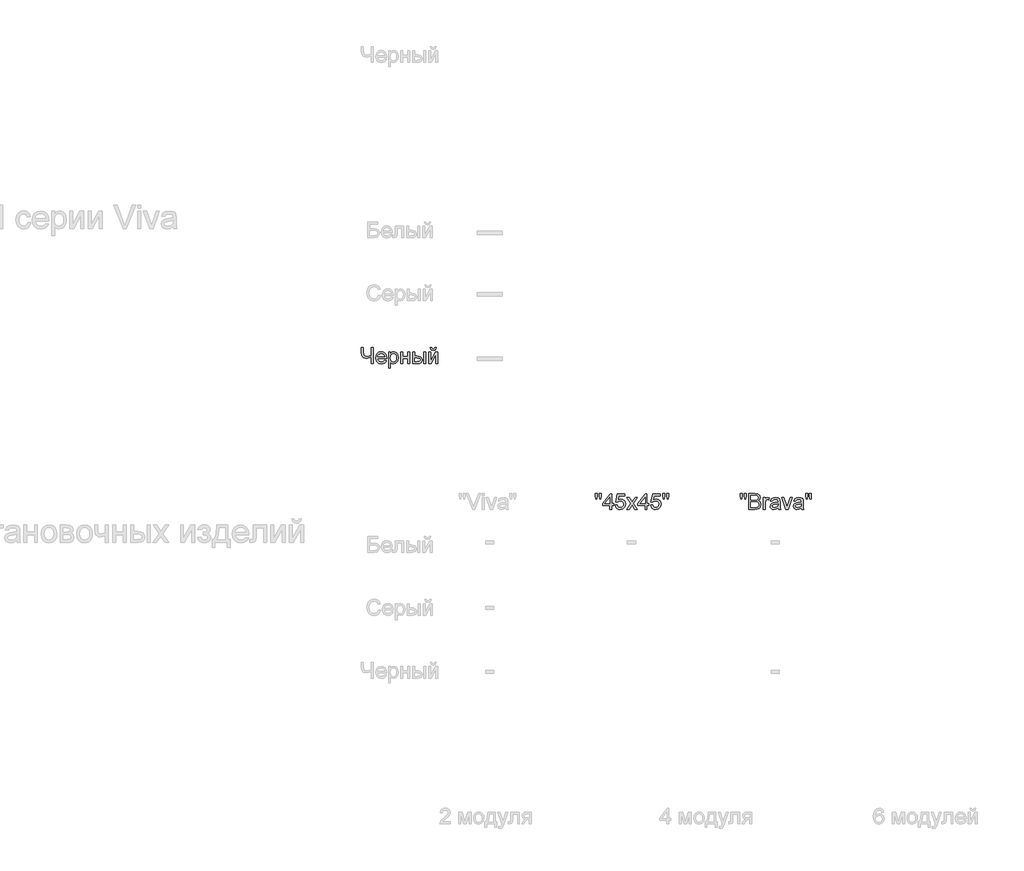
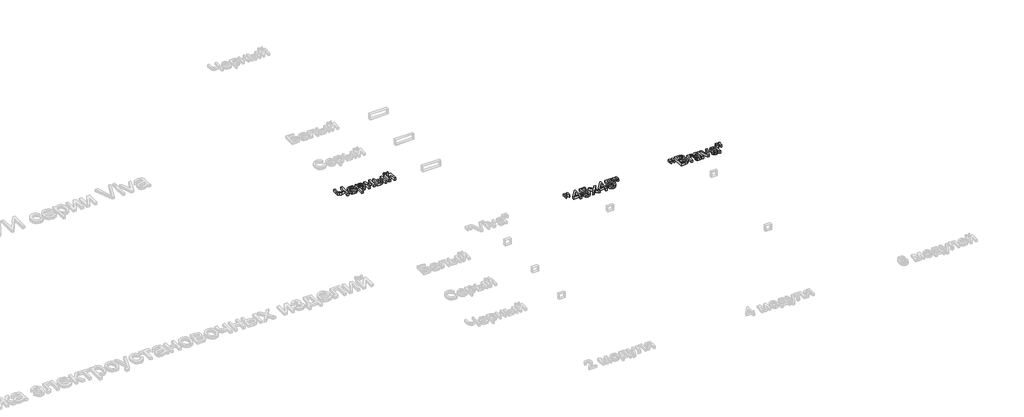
# One storey, part 21 of 48: 3 proxies.
"""IFC4 building model written with IfcOpenShell, lengths in millimetres."""

from ifc_helpers import new_model, si_unit, origin, origin_with_axes, place, context, project, spatial, polyline, outline, extrude, element, save

model = new_model("IFC4")

# Units and contexts
model_context = context("Model", 3, world=origin())
ifc_project = project(units=[si_unit("LENGTHUNIT", "METRE", prefix="MILLI")], contexts=[model_context])

# Site, building, storey
site = spatial("IfcSite", under=ifc_project)
building = spatial("IfcBuilding", under=site)
storey = spatial("IfcBuildingStorey", under=building, Name="Этаж 01", Elevation=0.0)

# Proxies
placement = place(None, origin())
element("IfcBuildingElementProxy", 1, Name="100 мм Arial", ObjectType="100 мм Arial", at=placement, inside=storey, context=model_context, shape_type="SweptSolid", body=[
    extrude(outline(polyline([(76555.9009525, -4442.3363711), (76543.3439138, -4442.3363711), (76543.3439138, -4402.1146062), (76512.2456225, -4409.3741443), (76493.8883109, -4404.4077373), (76483.2442585, -4391.8016476), (76480.5587199, -4371.8011298), (76480.5587199, -4341.8800609), (76493.1157587, -4341.8800609), (76493.1157587, -4370.1088727), (76494.6240749, -4383.686784), (76499.1490234, -4391.6544948), (76513.643574, -4396.8171055), (76543.3439138, -4390.5876371), (76543.3439138, -4341.8800609), (76555.9009525, -4341.8800609), (76555.9009525, -4442.3363711)])), origin_with_axes(), (0.0, 0.0, 1.0), 20.0),
    extrude(outline(polyline([(76627.9567727, -4420.3615532), (76640.2685568, -4421.9311831), (76635.8325131, -4431.2079407), (76628.7538503, -4438.1425163), (76619.1919841, -4442.4651297), (76607.30633, -4443.9060009), (76592.5726561, -4441.4197317), (76581.2357593, -4433.9609243), (76574.0068781, -4422.0139565), (76571.597251, -4406.0632063), (76574.0314035, -4389.5759616), (76581.3338611, -4377.2457834), (76592.5174738, -4369.5570497), (76606.5950915, -4366.9941384), (76620.2343165, -4369.5509183), (76631.1328206, -4377.2212579), (76638.2789283, -4389.5269106), (76640.6609642, -4405.9896299), (76640.5873878, -4409.3741443), (76584.1542898, -4409.3741443), (76586.3278592, -4418.7735293), (76591.3770396, -4425.6835794), (76598.6641688, -4429.9326164), (76607.5515847, -4431.3489621), (76619.8633688, -4428.7247372), (76627.9567727, -4420.3615532)]), holes=[polyline([(76584.1542898, -4396.8171055), (76628.1039255, -4396.8171055), (76623.0762049, -4385.4372891), (76615.7553532, -4381.0227052), (76606.5460406, -4379.5511772), (76591.082734, -4384.247804), (76586.2174946, -4389.7384428), (76584.1542898, -4396.8171055)])]), origin_with_axes(), (0.0, 0.0, 1.0), 20.0),
    extrude(outline(polyline([(76653.218003, -4470.5897083), (76653.218003, -4368.5637683), (76665.7750418, -4368.5637683), (76665.7750418, -4380.8755524), (76674.4570569, -4370.4644919), (76686.1802298, -4366.9941384), (76702.0972574, -4371.8501808), (76712.4960552, -4385.535391), (76716.0031969, -4404.8859839), (76712.042334, -4425.2298583), (76700.5398903, -4439.0867468), (76684.6596509, -4443.9060009), (76673.7335556, -4440.6809021), (76665.7750418, -4432.5261845), (76665.7750418, -4470.5897083), (76653.218003, -4470.5897083)]), holes=[polyline([(76665.7750418, -4406.0386809), (76667.1331395, -4417.2958699), (76671.2074326, -4425.1685446), (76677.2192375, -4429.8038577), (76684.3898707, -4431.3489621), (76691.6769999, -4429.7486754), (76697.842089, -4424.9478154), (76702.0451408, -4416.7869665), (76703.4461581, -4405.1067131), (76702.0788633, -4393.9108378), (76697.9769791, -4385.9277985), (76691.9743712, -4381.1453325), (76684.9049055, -4379.5511772), (76677.8078487, -4381.2465001), (76671.5753146, -4386.3324687), (76667.22511, -4394.6496674), (76665.7750418, -4406.0386809)])]), origin_with_axes(), (0.0, 0.0, 1.0), 20.0),
    extrude(outline(polyline([(76730.1298655, -4368.5637683), (76742.6869042, -4368.5637683), (76742.6869042, -4396.8171055), (76775.649131, -4396.8171055), (76775.649131, -4368.5637683), (76788.2061698, -4368.5637683), (76788.2061698, -4442.3363711), (76775.649131, -4442.3363711), (76775.649131, -4409.3741443), (76742.6869042, -4409.3741443), (76742.6869042, -4442.3363711), (76730.1298655, -4442.3363711), (76730.1298655, -4368.5637683)])), origin_with_axes(), (0.0, 0.0, 1.0), 20.0),
    extrude(outline(polyline([(76876.1054412, -4368.5637683), (76888.6624799, -4368.5637683), (76888.6624799, -4442.3363711), (76876.1054412, -4442.3363711), (76876.1054412, -4368.5637683)])), origin_with_axes(), (0.0, 0.0, 1.0), 20.0),
    extrude(outline(polyline([(76807.0417279, -4368.5637683), (76819.5987667, -4368.5637683), (76819.5987667, -4395.2474757), (76835.1233869, -4395.2474757), (76848.5418827, -4396.8201712), (76858.4838936, -4401.5382578), (76864.63672, -4409.0215907), (76866.6876621, -4418.8900252), (76864.9678137, -4427.875543), (76859.8082688, -4435.4569777), (76850.871802, -4440.6165227), (76837.8211882, -4442.3363711), (76807.0417279, -4442.3363711), (76807.0417279, -4368.5637683)]), holes=[polyline([(76819.5987667, -4429.7793323), (76832.499162, -4429.7793323), (76849.1519536, -4427.1428447), (76854.1306233, -4418.9145507), (76850.4395406, -4411.1890288), (76834.1423682, -4407.8045144), (76819.5987667, -4407.8045144), (76819.5987667, -4429.7793323)])]), origin_with_axes(), (0.0, 0.0, 1.0), 20.0),
    extrude(outline(polyline([(76907.4980381, -4368.5637683), (76920.0550768, -4368.5637683), (76920.0550768, -4424.8251881), (76950.9081135, -4368.5637683), (76967.1439722, -4368.5637683), (76967.1439722, -4442.3363711), (76954.5869335, -4442.3363711), (76954.5869335, -4386.4183078), (76923.9301005, -4442.3363711), (76907.4980381, -4442.3363711), (76907.4980381, -4368.5637683)])), origin_with_axes(), (0.0, 0.0, 1.0), 20.0),
    extrude(outline(polyline([(76948.3084141, -4341.8800609), (76957.7261931, -4341.8800609), (76951.6316148, -4355.847314), (76938.1058201, -4360.7156191), (76923.4641167, -4355.8841022), (76916.9158171, -4341.8800609), (76926.3335962, -4341.8800609), (76929.8652634, -4348.9556579), (76936.9776486, -4351.29784), (76944.7767469, -4349.0292343), (76948.3084141, -4341.8800609)])), origin_with_axes(), (0.0, 0.0, 1.0), 20.0),
])
element("IfcBuildingElementProxy", 2, Name="100 мм Arial", ObjectType="100 мм Arial", at=placement, inside=storey, context=model_context, shape_type="SweptSolid", body=[
    extrude(outline(polyline([(77970.2792525, -5304.3365474), (77967.2135692, -5284.9369035), (77967.2135692, -5268.235061), (77979.770608, -5268.235061), (77979.770608, -5284.9369035), (77977.0237558, -5304.3365474), (77970.2792525, -5304.3365474)])), origin_with_axes(), (0.0, 0.0, 1.0), 20.0),
    extrude(outline(polyline([(77995.3197537, -5304.3365474), (77992.3276468, -5284.9369035), (77992.3276468, -5268.235061), (78004.8846855, -5268.235061), (78004.8846855, -5284.9369035), (78001.9416296, -5304.3365474), (77995.3197537, -5304.3365474)])), origin_with_axes(), (0.0, 0.0, 1.0), 20.0),
    extrude(outline(polyline([(78058.2521003, -5368.6913711), (78058.2521003, -5345.1469234), (78012.7328348, -5345.1469234), (78012.7328348, -5332.5898847), (78061.39136, -5269.8046908), (78070.8091391, -5269.8046908), (78070.8091391, -5332.5898847), (78083.3661779, -5332.5898847), (78083.3661779, -5345.1469234), (78070.8091391, -5345.1469234), (78070.8091391, -5368.6913711), (78058.2521003, -5368.6913711)]), holes=[polyline([(78058.2521003, -5332.5898847), (78058.2521003, -5293.7905969), (78028.1838786, -5332.5898847), (78058.2521003, -5332.5898847)])]), origin_with_axes(), (0.0, 0.0, 1.0), 20.0),
    extrude(outline(polyline([(78094.3535868, -5342.0076637), (78106.9106255, -5340.4380339), (78113.2381959, -5353.3752174), (78126.3593204, -5357.7039622), (78135.3601665, -5356.1987117), (78142.1046698, -5351.6829602), (78146.3169186, -5344.6778739), (78147.7210015, -5335.7046189), (78142.460289, -5320.7931353), (78135.8537415, -5316.6912511), (78126.5555241, -5315.3239563), (78115.531327, -5317.5067229), (78108.4802554, -5323.1721056), (78095.9232166, -5321.6024757), (78106.9106255, -5269.8046908), (78155.5691508, -5269.8046908), (78155.5691508, -5282.3617296), (78117.0641686, -5282.3617296), (78111.6930915, -5310.0264556), (78120.6632808, -5304.5818021), (78130.0626658, -5302.7669176), (78141.7950357, -5305.0171291), (78151.5347116, -5311.7677637), (78158.0922081, -5322.0561969), (78160.2780403, -5334.919804), (78158.3098716, -5347.4768427), (78152.4053656, -5358.218997), (78141.0991256, -5367.2505), (78126.3102694, -5370.261001), (78113.9770255, -5368.3265548), (78104.1515106, -5362.5232163), (78097.4162044, -5353.5254359), (78094.3535868, -5342.0076637)])), origin_with_axes(), (0.0, 0.0, 1.0), 20.0),
    extrude(outline(polyline([(78166.5565597, -5368.6913711), (78193.3874199, -5331.608866), (78168.1261895, -5294.9187683), (78183.2338768, -5294.9187683), (78195.4230336, -5312.5771041), (78201.1129418, -5320.9157627), (78206.0425605, -5314.097683), (78219.9239745, -5294.9187683), (78235.0316617, -5294.9187683), (78208.4951071, -5331.608866), (78234.0506431, -5368.6913711), (78218.9429558, -5368.6913711), (78203.5654884, -5346.3977222), (78200.7450598, -5342.3264948), (78181.664247, -5368.6913711), (78166.5565597, -5368.6913711)])), origin_with_axes(), (0.0, 0.0, 1.0), 20.0),
    extrude(outline(polyline([(78282.7091683, -5368.6913711), (78282.7091683, -5345.1469234), (78237.1899028, -5345.1469234), (78237.1899028, -5332.5898847), (78285.848428, -5269.8046908), (78295.2662071, -5269.8046908), (78295.2662071, -5332.5898847), (78307.8232458, -5332.5898847), (78307.8232458, -5345.1469234), (78295.2662071, -5345.1469234), (78295.2662071, -5368.6913711), (78282.7091683, -5368.6913711)]), holes=[polyline([(78282.7091683, -5332.5898847), (78282.7091683, -5293.7905969), (78252.6409466, -5332.5898847), (78282.7091683, -5332.5898847)])]), origin_with_axes(), (0.0, 0.0, 1.0), 20.0),
    extrude(outline(polyline([(78318.8106548, -5342.0076637), (78331.3676935, -5340.4380339), (78337.6952639, -5353.3752174), (78350.8163883, -5357.7039622), (78359.8172345, -5356.1987117), (78366.5617377, -5351.6829602), (78370.7739866, -5344.6778739), (78372.1780695, -5335.7046189), (78366.917357, -5320.7931353), (78360.3108095, -5316.6912511), (78351.0125921, -5315.3239563), (78339.988395, -5317.5067229), (78332.9373234, -5323.1721056), (78320.3802846, -5321.6024757), (78331.3676935, -5269.8046908), (78380.0262188, -5269.8046908), (78380.0262188, -5282.3617296), (78341.5212366, -5282.3617296), (78336.1501595, -5310.0264556), (78345.1203488, -5304.5818021), (78354.5197338, -5302.7669176), (78366.2521037, -5305.0171291), (78375.9917796, -5311.7677637), (78382.5492761, -5322.0561969), (78384.7351083, -5334.919804), (78382.7669396, -5347.4768427), (78376.8624336, -5358.218997), (78365.5561936, -5367.2505), (78350.7673374, -5370.261001), (78338.4340935, -5368.3265548), (78328.6085786, -5362.5232163), (78321.8732724, -5353.5254359), (78318.8106548, -5342.0076637)])), origin_with_axes(), (0.0, 0.0, 1.0), 20.0),
    extrude(outline(polyline([(78398.7882005, -5304.3365474), (78395.7225172, -5284.9369035), (78395.7225172, -5268.235061), (78408.279556, -5268.235061), (78408.279556, -5284.9369035), (78405.5327038, -5304.3365474), (78398.7882005, -5304.3365474)])), origin_with_axes(), (0.0, 0.0, 1.0), 20.0),
    extrude(outline(polyline([(78423.8287017, -5304.3365474), (78420.8365948, -5284.9369035), (78420.8365948, -5268.235061), (78433.3936335, -5268.235061), (78433.3936335, -5284.9369035), (78430.4505776, -5304.3365474), (78423.8287017, -5304.3365474)])), origin_with_axes(), (0.0, 0.0, 1.0), 20.0),
])
element("IfcBuildingElementProxy", 3, Name="100 мм Arial", ObjectType="100 мм Arial", at=placement, inside=storey, context=model_context, shape_type="SweptSolid", body=[
    extrude(outline(polyline([(78891.3006795, -5304.3365474), (78888.2349962, -5284.9369035), (78888.2349962, -5268.235061), (78900.792035, -5268.235061), (78900.792035, -5284.9369035), (78898.0451828, -5304.3365474), (78891.3006795, -5304.3365474)])), origin_with_axes(), (0.0, 0.0, 1.0), 20.0),
    extrude(outline(polyline([(78916.3411807, -5304.3365474), (78913.3490738, -5284.9369035), (78913.3490738, -5268.235061), (78925.9061125, -5268.235061), (78925.9061125, -5284.9369035), (78922.9630566, -5304.3365474), (78916.3411807, -5304.3365474)])), origin_with_axes(), (0.0, 0.0, 1.0), 20.0),
    extrude(outline(polyline([(78943.1720408, -5368.6913711), (78943.1720408, -5268.235061), (78981.5053447, -5268.235061), (79000.2795892, -5271.1903797), (79011.3651, -5280.2770649), (79015.3750138, -5293.1284093), (79012.0027621, -5304.863845), (79001.8124309, -5313.7543265), (79014.1855286, -5323.1230546), (79018.5142735, -5338.7457767), (79015.5589548, -5352.2470459), (79008.2381031, -5361.8610287), (78997.3120078, -5366.9623257), (78981.2110391, -5368.6913711), (78943.1720408, -5368.6913711)]), holes=[polyline([(78955.7290796, -5309.045437), (78978.6603906, -5309.045437), (78992.0512953, -5307.9663164), (79000.107911, -5303.3187406), (79002.817975, -5295.1394975), (79000.291852, -5286.9479918), (78993.0568394, -5282.1042122), (78976.9190825, -5280.7920997), (78955.7290796, -5280.7920997), (78955.7290796, -5309.045437)]), polyline([(78955.7290796, -5356.1343323), (78981.4808193, -5356.1343323), (78990.8004965, -5355.643823), (78998.6854339, -5352.9092335), (79003.9093582, -5347.3296899), (79005.9572347, -5338.868404), (79003.553739, -5329.1072684), (78995.7669034, -5323.2824702), (78980.254546, -5321.6024757), (78955.7290796, -5321.6024757), (78955.7290796, -5356.1343323)])]), origin_with_axes(), (0.0, 0.0, 1.0), 20.0),
    extrude(outline(polyline([(79034.2105719, -5368.6913711), (79034.2105719, -5294.9187683), (79045.1979808, -5294.9187683), (79045.1979808, -5305.8326009), (79052.9970791, -5295.7771597), (79060.8452284, -5293.3491385), (79073.4513181, -5297.2241622), (79069.2574633, -5308.4813512), (79060.4282954, -5305.9061773), (79053.3281729, -5308.3832494), (79048.8032244, -5315.2503799), (79046.7676107, -5329.9166088), (79046.7676107, -5368.6913711), (79034.2105719, -5368.6913711)])), origin_with_axes(), (0.0, 0.0, 1.0), 20.0),
    extrude(outline(polyline([(79128.3883627, -5359.273592), (79116.2114686, -5367.7839289), (79102.7592504, -5370.261001), (79092.2654164, -5368.7710789), (79084.5245661, -5364.3013126), (79079.7512972, -5357.5138898), (79078.1602076, -5349.070998), (79080.5637033, -5339.1381842), (79086.8790109, -5331.9276971), (79095.6713906, -5327.8074187), (79106.5361722, -5325.9189578), (79128.3147863, -5321.6024757), (79128.3883627, -5318.8065726), (79124.9302719, -5309.5359463), (79111.048858, -5305.9061773), (79098.3446664, -5308.3219357), (79092.2868762, -5316.8935862), (79079.7298375, -5315.3239563), (79085.1622283, -5303.0612232), (79096.1005862, -5295.8752615), (79112.6675388, -5293.3491385), (79127.8855906, -5295.5809559), (79136.4817666, -5301.185025), (79140.3322648, -5309.7076246), (79140.9454015, -5320.6950335), (79140.9454015, -5336.3177555), (79141.5830636, -5358.1331579), (79144.0846611, -5368.6913711), (79131.5276224, -5368.6913711), (79128.3883627, -5359.273592)]), holes=[polyline([(79128.3883627, -5334.1595145), (79108.1303275, -5338.0100127), (79097.3268596, -5340.0456264), (79092.434029, -5343.3565644), (79090.7172464, -5348.1880812), (79094.45738, -5354.9816354), (79105.4325262, -5357.7039622), (79118.1367178, -5354.6995926), (79126.3282235, -5347.4277918), (79128.3147863, -5337.7157071), (79128.3883627, -5334.1595145)])]), origin_with_axes(), (0.0, 0.0, 1.0), 20.0),
    extrude(outline(polyline([(79176.3111239, -5368.6913711), (79150.3631805, -5294.9187683), (79163.6559833, -5294.9187683), (79179.3768072, -5339.1136587), (79184.1102222, -5353.9760913), (79188.7455354, -5339.9475246), (79204.5644612, -5294.9187683), (79217.8572639, -5294.9187683), (79192.2281516, -5368.6913711), (79176.3111239, -5368.6913711)])), origin_with_axes(), (0.0, 0.0, 1.0), 20.0),
    extrude(outline(polyline([(79275.9335682, -5359.273592), (79263.7566742, -5367.7839289), (79250.3044559, -5370.261001), (79239.810622, -5368.7710789), (79232.0697717, -5364.3013126), (79227.2965028, -5357.5138898), (79225.7054131, -5349.070998), (79228.1089088, -5339.1381842), (79234.4242164, -5331.9276971), (79243.2165961, -5327.8074187), (79254.0813777, -5325.9189578), (79275.8599918, -5321.6024757), (79275.9335682, -5318.8065726), (79272.4754775, -5309.5359463), (79258.5940635, -5305.9061773), (79245.8898719, -5308.3219357), (79239.8320818, -5316.8935862), (79227.275043, -5315.3239563), (79232.7074338, -5303.0612232), (79243.6457918, -5295.8752615), (79260.2127443, -5293.3491385), (79275.4307962, -5295.5809559), (79284.0269721, -5301.185025), (79287.8774703, -5309.7076246), (79288.490607, -5320.6950335), (79288.490607, -5336.3177555), (79289.1282691, -5358.1331579), (79291.6298667, -5368.6913711), (79279.0728279, -5368.6913711), (79275.9335682, -5359.273592)]), holes=[polyline([(79275.9335682, -5334.1595145), (79255.675533, -5338.0100127), (79244.8720651, -5340.0456264), (79239.9792346, -5343.3565644), (79238.2624519, -5348.1880812), (79242.0025855, -5354.9816354), (79252.9777317, -5357.7039622), (79265.6819233, -5354.6995926), (79273.873429, -5347.4277918), (79275.8599918, -5337.7157071), (79275.9335682, -5334.1595145)])]), origin_with_axes(), (0.0, 0.0, 1.0), 20.0),
    extrude(outline(polyline([(79305.6829589, -5304.3365474), (79302.6172756, -5284.9369035), (79302.6172756, -5268.235061), (79315.1743144, -5268.235061), (79315.1743144, -5284.9369035), (79312.4274621, -5304.3365474), (79305.6829589, -5304.3365474)])), origin_with_axes(), (0.0, 0.0, 1.0), 20.0),
    extrude(outline(polyline([(79330.72346, -5304.3365474), (79327.7313531, -5284.9369035), (79327.7313531, -5268.235061), (79340.2883919, -5268.235061), (79340.2883919, -5284.9369035), (79337.3453359, -5304.3365474), (79330.72346, -5304.3365474)])), origin_with_axes(), (0.0, 0.0, 1.0), 20.0),
])

save(model, "model.ifc")
